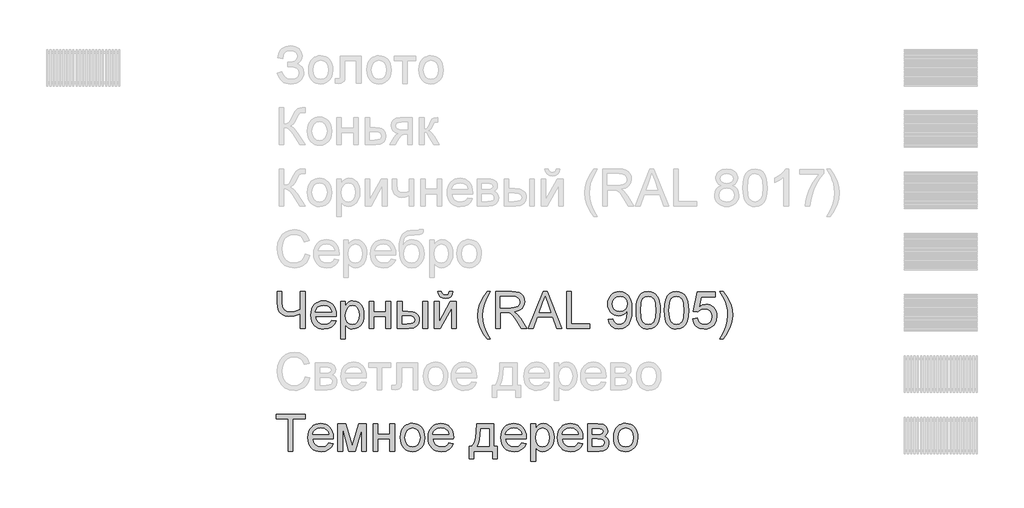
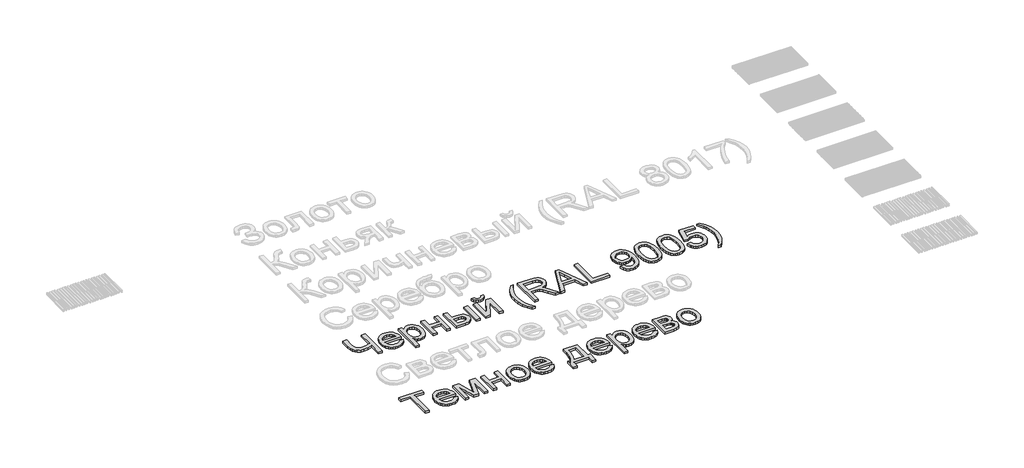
# One storey, part 4 of 10: 2 proxies.
"""IFC4 building model written with IfcOpenShell, lengths in millimetres."""

from ifc_helpers import new_model, si_unit, origin, origin_with_axes, place, context, project, spatial, polyline, outline, extrude, element, save

model = new_model("IFC4")

# Units and contexts
model_context = context("Model", 3, world=origin())
ifc_project = project(units=[si_unit("LENGTHUNIT", "METRE", prefix="MILLI")], contexts=[model_context])

# Site, building, storey
site = spatial("IfcSite", under=ifc_project)
building = spatial("IfcBuilding", under=site)
storey = spatial("IfcBuildingStorey", under=building, Name="Уровень 1", Elevation=0.0)

# Proxies
placement = place(None, origin())
element("IfcBuildingElementProxy", 1, Name="300", ObjectType="300", at=placement, inside=storey, context=model_context, shape_type="SweptSolid", body=[
    extrude(outline(polyline([(7314.0636537, -21515.1127464), (7276.3925374, -21515.1127464), (7276.3925374, -21394.447452), (7226.4341625, -21410.7814125), (7183.0976634, -21416.2260661), (7153.7314832, -21412.5012609), (7128.0257288, -21401.3268453), (7108.1049187, -21384.4226676), (7096.0935716, -21363.5085762), (7090.0511098, -21337.0486637), (7088.0369559, -21303.5070228), (7088.0369559, -21213.7438159), (7125.7080722, -21213.7438159), (7125.7080722, -21298.4302512), (7130.2330207, -21339.1639851), (7135.8892064, -21353.2193766), (7143.8078663, -21363.0671178), (7163.7286764, -21374.6829918), (7187.2915182, -21378.5549498), (7230.7567759, -21373.8828484), (7276.3925374, -21359.8665444), (7276.3925374, -21213.7438159), (7314.0636537, -21213.7438159), (7314.0636537, -21515.1127464)])), origin_with_axes(), (0.0, 0.0, 1.0), 20.0),
    extrude(outline(polyline([(7530.2311141, -21449.1882928), (7567.1664664, -21453.8971824), (7553.8583352, -21481.7274553), (7532.622347, -21502.5311821), (7503.9367485, -21515.4990225), (7468.2797861, -21519.8216359), (7444.9054838, -21517.9569341), (7424.0787644, -21512.3628285), (7405.7996277, -21503.0393192), (7390.0680739, -21489.9864061), (7377.4175318, -21473.5673728), (7368.3814303, -21454.1455027), (7362.9597694, -21431.7207959), (7361.1525491, -21406.2932522), (7362.9781635, -21380.0034851), (7368.4550067, -21356.831518), (7377.5830787, -21336.7773507), (7390.3623795, -21319.8409833), (7406.0525466, -21306.3856994), (7423.9132175, -21296.7747822), (7443.9443921, -21291.008232), (7466.1460705, -21289.0860485), (7487.6326783, -21291.0036334), (7507.0637454, -21296.7563881), (7524.4392719, -21306.3443126), (7539.7592578, -21319.7674069), (7552.2649463, -21336.6669861), (7561.197581, -21356.6843652), (7566.5571618, -21379.8195441), (7568.3436888, -21406.072523), (7568.1229596, -21416.2260661), (7398.8236654, -21416.2260661), (7405.3443738, -21444.424221), (7420.4919149, -21465.1543714), (7442.3533025, -21477.9014826), (7469.0155501, -21482.1505196), (7489.0651188, -21480.1823509), (7505.9509024, -21474.2778449), (7519.6729008, -21464.0691195), (7530.2311141, -21449.1882928)]), holes=[polyline([(7398.8236654, -21378.5549498), (7530.6725725, -21378.5549498), (7525.5774068, -21358.6525338), (7515.5894107, -21344.4155006), (7493.6268556, -21331.1717488), (7465.9989177, -21326.7571648), (7440.605863, -21330.279635), (7419.6089981, -21340.8470453), (7405.01328, -21357.3189616), (7398.8236654, -21378.5549498)])]), origin_with_axes(), (0.0, 0.0, 1.0), 20.0),
    extrude(outline(polyline([(7606.0148051, -21599.8727581), (7606.0148051, -21293.7949381), (7643.6859214, -21293.7949381), (7643.6859214, -21330.7302904), (7655.97318, -21312.5109346), (7669.7319666, -21299.497109), (7685.7716216, -21291.6888137), (7704.9014854, -21289.0860485), (7730.3773136, -21292.7280803), (7752.6525684, -21303.6541756), (7770.7891507, -21321.2021467), (7783.8489616, -21344.7098062), (7791.7400303, -21372.4665028), (7794.3703866, -21402.7615851), (7791.3997395, -21434.9788508), (7782.4877982, -21463.7932081), (7767.9196712, -21487.7423259), (7747.980467, -21505.3638735), (7724.7579161, -21516.2071953), (7700.3397486, -21519.8216359), (7683.0217037, -21517.4028118), (7667.5614629, -21510.1463394), (7654.3269081, -21499.192653), (7643.6859214, -21485.6821868), (7643.6859214, -21599.8727581), (7606.0148051, -21599.8727581)]), holes=[polyline([(7643.6859214, -21406.2196758), (7647.7602145, -21439.991243), (7659.9830938, -21463.6092671), (7678.0185086, -21477.5152065), (7699.5304083, -21482.1505196), (7721.3917958, -21477.3496596), (7739.8870631, -21462.9470795), (7752.4962185, -21438.4645327), (7756.6992703, -21403.4237726), (7752.5973861, -21369.8361465), (7740.2917333, -21345.8870286), (7722.2839097, -21331.5396308), (7701.0755126, -21326.7571648), (7679.7843422, -21331.8431334), (7661.0867398, -21347.1010392), (7648.036126, -21372.0526355), (7643.6859214, -21406.2196758)])]), origin_with_axes(), (0.0, 0.0, 1.0), 20.0),
    extrude(outline(polyline([(7836.7503925, -21293.7949381), (7874.4215088, -21293.7949381), (7874.4215088, -21378.5549498), (7973.3081891, -21378.5549498), (7973.3081891, -21293.7949381), (8010.9793054, -21293.7949381), (8010.9793054, -21515.1127464), (7973.3081891, -21515.1127464), (7973.3081891, -21416.2260661), (7874.4215088, -21416.2260661), (7874.4215088, -21515.1127464), (7836.7503925, -21515.1127464), (7836.7503925, -21293.7949381)])), origin_with_axes(), (0.0, 0.0, 1.0), 20.0),
    extrude(outline(polyline([(8274.6771195, -21293.7949381), (8312.3482358, -21293.7949381), (8312.3482358, -21515.1127464), (8274.6771195, -21515.1127464), (8274.6771195, -21293.7949381)])), origin_with_axes(), (0.0, 0.0, 1.0), 20.0),
    extrude(outline(polyline([(8067.4859798, -21293.7949381), (8105.1570961, -21293.7949381), (8105.1570961, -21373.8460602), (8151.7309567, -21373.8460602), (8191.9864441, -21378.5641468), (8208.2031423, -21384.4617551), (8221.8124768, -21392.7184066), (8232.579923, -21403.0489929), (8240.2709559, -21415.1684053), (8244.8855757, -21429.076644), (8246.4237823, -21444.7737089), (8241.2642373, -21471.7302621), (8225.7856024, -21494.4745665), (8213.9237073, -21503.5037702), (8198.976202, -21509.9532014), (8159.8243606, -21515.1127464), (8067.4859798, -21515.1127464), (8067.4859798, -21293.7949381)]), holes=[polyline([(8105.1570961, -21477.4416301), (8143.858282, -21477.4416301), (8173.8590587, -21475.4642644), (8193.816657, -21469.5321672), (8205.0186637, -21459.4062153), (8208.752666, -21444.8472853), (8205.984354, -21432.5416326), (8197.6794179, -21421.6707196), (8179.9199146, -21414.0555623), (8148.7879008, -21411.5171765), (8105.1570961, -21411.5171765), (8105.1570961, -21477.4416301)])]), origin_with_axes(), (0.0, 0.0, 1.0), 20.0),
    extrude(outline(polyline([(8491.2860383, -21213.7438159), (8519.5393755, -21213.7438159), (8513.4601255, -21237.8676778), (8501.2556403, -21255.6455752), (8483.4777429, -21266.5992616), (8460.6782563, -21270.2504904), (8435.9381921, -21266.6268527), (8416.7531461, -21255.7559398), (8403.6381529, -21238.0056335), (8397.1082475, -21213.7438159), (8425.3615847, -21213.7438159), (8429.3347103, -21226.1506362), (8435.9565862, -21234.9706071), (8445.2640007, -21240.2405166), (8457.2937419, -21241.9971532), (8470.8685875, -21240.2956989), (8480.6910368, -21235.1913363), (8487.3129127, -21226.4265477), (8491.2860383, -21213.7438159)])), origin_with_axes(), (0.0, 0.0, 1.0), 20.0),
    extrude(outline(polyline([(8368.8549103, -21293.7949381), (8406.5260266, -21293.7949381), (8406.5260266, -21462.5791975), (8499.0851366, -21293.7949381), (8547.7927127, -21293.7949381), (8547.7927127, -21515.1127464), (8510.1215964, -21515.1127464), (8510.1215964, -21347.3585566), (8418.1510976, -21515.1127464), (8368.8549103, -21515.1127464), (8368.8549103, -21293.7949381)])), origin_with_axes(), (0.0, 0.0, 1.0), 20.0),
    extrude(outline(polyline([(8797.3638583, -21599.8727581), (8768.1724219, -21558.9090979), (8743.8738162, -21511.5075028), (8727.4846733, -21459.9672353), (8722.0216257, -21406.5875578), (8726.1051158, -21359.7745739), (8738.3555862, -21314.984941), (8762.6725861, -21264.2540139), (8797.3638583, -21213.7438159), (8825.6171955, -21213.7438159), (8790.3741004, -21273.4142755), (8769.1840974, -21331.2453252), (8762.0655808, -21368.9348356), (8759.692742, -21406.808287), (8763.8130203, -21455.1019959), (8776.1738553, -21503.3773107), (8796.7752471, -21551.6342315), (8825.6171955, -21599.8727581), (8797.3638583, -21599.8727581)])), origin_with_axes(), (0.0, 0.0, 1.0), 20.0),
    extrude(outline(polyline([(8867.9972013, -21515.1127464), (8867.9972013, -21213.7438159), (8997.8595456, -21213.7438159), (9032.7623499, -21215.776364), (9058.1554046, -21221.874008), (9076.7150513, -21233.1311971), (9091.1176314, -21250.64238), (9100.3606665, -21272.3566148), (9103.4416783, -21296.2229593), (9098.3373156, -21325.9110363), (9083.0242275, -21350.5223417), (9071.4244484, -21360.5517246), (9057.0425616, -21368.5669536), (9019.9324653, -21378.5549498), (9041.3431975, -21394.6681812), (9071.8774031, -21433.4429435), (9122.1300836, -21515.1127464), (9078.3521262, -21515.1127464), (9039.1359055, -21452.6463836), (9010.8089919, -21411.2964473), (8990.9065759, -21391.7619134), (8972.9907228, -21384.5882145), (8951.1385322, -21383.2638393), (8905.6683176, -21383.2638393), (8905.6683176, -21515.1127464), (8867.9972013, -21515.1127464)]), holes=[polyline([(8905.6683176, -21345.592723), (8989.9868709, -21345.592723), (9014.2027033, -21344.2591508), (9032.9922762, -21340.2584341), (9047.1373389, -21333.3238585), (9057.4196407, -21323.1887095), (9063.6828316, -21310.929042), (9065.7705619, -21297.6209108), (9061.7882393, -21279.2452052), (9049.8412716, -21264.4379549), (9029.2858651, -21254.6706879), (8999.4782264, -21251.4149322), (8905.6683176, -21251.4149322), (8905.6683176, -21345.592723)])]), origin_with_axes(), (0.0, 0.0, 1.0), 20.0),
    extrude(outline(polyline([(9134.2701894, -21515.1127464), (9254.5676019, -21213.7438159), (9286.6469119, -21213.7438159), (9406.9443243, -21515.1127464), (9367.1394924, -21515.1127464), (9332.6321612, -21420.9349556), (9208.5087761, -21420.9349556), (9174.0750213, -21515.1127464), (9134.2701894, -21515.1127464)]), holes=[polyline([(9222.3411391, -21383.2638393), (9318.8733746, -21383.2638393), (9291.7236834, -21309.1724055), (9270.6072569, -21251.4149322), (9251.8452751, -21302.6976824), (9222.3411391, -21383.2638393)])]), origin_with_axes(), (0.0, 0.0, 1.0), 20.0),
    extrude(outline(polyline([(9447.1906145, -21515.1127464), (9447.1906145, -21213.7438159), (9484.8617309, -21213.7438159), (9484.8617309, -21477.4416301), (9635.5461961, -21477.4416301), (9635.5461961, -21515.1127464), (9447.1906145, -21515.1127464)])), origin_with_axes(), (0.0, 0.0, 1.0), 20.0),
    extrude(outline(polyline([(9786.2306613, -21439.7705138), (9823.9017776, -21435.0616242), (9830.3397125, -21456.4447652), (9840.8243494, -21471.0036952), (9855.0981708, -21479.3638135), (9872.9036594, -21482.1505196), (9888.878935, -21480.3570949), (9903.4010768, -21474.9768207), (9915.4676062, -21466.5983083), (9924.0760449, -21455.8101688), (9936.4000917, -21423.0686712), (9941.8447453, -21379.3642902), (9941.6240161, -21372.0066503), (9928.5734023, -21387.9359406), (9911.4944807, -21400.5542931), (9891.6196559, -21408.7764557), (9870.1813326, -21411.5171765), (9852.2861728, -21409.8433135), (9835.8303513, -21404.8217242), (9820.8138681, -21396.4524088), (9807.2367232, -21384.7353673), (9795.986432, -21370.2822034), (9787.9505096, -21353.704521), (9783.1289562, -21335.0023201), (9781.5217718, -21314.1756006), (9783.2071312, -21292.6545039), (9788.2632093, -21273.3406992), (9796.6900063, -21256.2341864), (9808.487522, -21241.3349656), (9822.8234235, -21229.2638376), (9838.8653778, -21220.6416033), (9856.6133848, -21215.4682628), (9876.0674445, -21213.7438159), (9904.1644319, -21217.6801533), (9929.7414276, -21229.4891653), (9951.1337656, -21248.5822409), (9966.6767799, -21274.3707687), (9976.1405443, -21310.0185341), (9979.2951324, -21358.689322), (9976.1497413, -21410.2939689), (9966.7135681, -21450.1815742), (9951.0693863, -21480.1547598), (9929.2999692, -21502.0161474), (9902.343416, -21515.3702638), (9871.1378258, -21519.8216359), (9838.9297571, -21514.5701204), (9813.2331997, -21498.815574), (9795.2621643, -21473.551278), (9786.2306613, -21439.7705138)]), holes=[polyline([(9941.6240161, -21313.2926838), (9937.55892, -21287.7616734), (9925.3636319, -21268.1167748), (9906.4361032, -21255.5903929), (9882.1742856, -21251.4149322), (9857.0111572, -21255.9122896), (9836.8512238, -21269.4043618), (9823.607472, -21290.0517388), (9819.1928881, -21316.0150106), (9823.3683487, -21339.2927438), (9835.8947306, -21357.769617), (9855.5580233, -21369.8269494), (9881.1442161, -21373.8460602), (9905.2128956, -21369.8269494), (9924.5910797, -21357.769617), (9937.365782, -21338.6121621), (9941.6240161, -21313.2926838)])]), origin_with_axes(), (0.0, 0.0, 1.0), 20.0),
    extrude(outline(polyline([(10012.2573591, -21366.8563023), (10015.0256712, -21318.6177757), (10023.3306072, -21280.1465161), (10037.0893938, -21250.8539122), (10056.2192576, -21230.1513529), (10080.8581542, -21217.8457002), (10111.1440394, -21213.7438159), (10134.3573933, -21216.1718371), (10155.1427261, -21223.4559006), (10172.5251503, -21235.3108979), (10185.5297789, -21251.4517204), (10195.3522281, -21271.7404125), (10203.1881146, -21296.0390183), (10208.3200685, -21326.8951206), (10210.0307197, -21366.8563023), (10207.2899989, -21414.8189174), (10199.0678363, -21453.1982066), (10185.3918231, -21482.5184016), (10166.2895505, -21503.3037343), (10141.5954716, -21515.6921605), (10111.1440394, -21519.8216359), (10090.3954949, -21518.0282112), (10072.0013952, -21512.647937), (10055.9617402, -21503.6808134), (10042.2765299, -21491.1268403), (10029.1431427, -21468.4331197), (10019.7621518, -21440.1567899), (10014.1335573, -21406.2978507), (10012.2573591, -21366.8563023)]), holes=[polyline([(10049.9284754, -21366.7827259), (10054.3430594, -21426.0393183), (10059.8612893, -21446.307317), (10067.5868112, -21460.3351173), (10087.3052862, -21476.696669), (10111.1440394, -21482.1505196), (10134.9827927, -21476.6782749), (10154.7012677, -21460.2615409), (10162.4267896, -21446.2107479), (10167.9450195, -21425.9473478), (10172.3596034, -21366.7827259), (10168.0921723, -21308.8597058), (10162.7578834, -21288.6583857), (10155.2898789, -21274.2971923), (10135.6081921, -21257.1354973), (10110.702581, -21251.4149322), (10087.1213452, -21256.4549156), (10068.1754224, -21271.5748656), (10060.1923831, -21287.2098504), (10054.4902122, -21308.2894887), (10049.9284754, -21366.7827259)])]), origin_with_axes(), (0.0, 0.0, 1.0), 20.0),
    extrude(outline(polyline([(10242.9929465, -21366.8563023), (10245.7612585, -21318.6177757), (10254.0661946, -21280.1465161), (10267.8249812, -21250.8539122), (10286.9548449, -21230.1513529), (10311.5937416, -21217.8457002), (10341.8796268, -21213.7438159), (10365.0929807, -21216.1718371), (10385.8783134, -21223.4559006), (10403.2607377, -21235.3108979), (10416.2653662, -21251.4517204), (10426.0878155, -21271.7404125), (10433.923702, -21296.0390183), (10439.0556558, -21326.8951206), (10440.7663071, -21366.8563023), (10438.0255863, -21414.8189174), (10429.8034237, -21453.1982066), (10416.1274105, -21482.5184016), (10397.0251379, -21503.3037343), (10372.331059, -21515.6921605), (10341.8796268, -21519.8216359), (10321.1310823, -21518.0282112), (10302.7369825, -21512.647937), (10286.6973275, -21503.6808134), (10273.0121173, -21491.1268403), (10259.8787301, -21468.4331197), (10250.4977392, -21440.1567899), (10244.8691447, -21406.2978507), (10242.9929465, -21366.8563023)]), holes=[polyline([(10280.6640628, -21366.7827259), (10285.0786468, -21426.0393183), (10290.5968767, -21446.307317), (10298.3223986, -21460.3351173), (10318.0408735, -21476.696669), (10341.8796268, -21482.1505196), (10365.7183801, -21476.6782749), (10385.436855, -21460.2615409), (10393.1623769, -21446.2107479), (10398.6806069, -21425.9473478), (10403.0951908, -21366.7827259), (10398.8277597, -21308.8597058), (10393.4934707, -21288.6583857), (10386.0254662, -21274.2971923), (10366.3437795, -21257.1354973), (10341.4381684, -21251.4149322), (10317.8569325, -21256.4549156), (10298.9110098, -21271.5748656), (10290.9279705, -21287.2098504), (10285.2257996, -21308.2894887), (10280.6640628, -21366.7827259)])]), origin_with_axes(), (0.0, 0.0, 1.0), 20.0),
    extrude(outline(polyline([(10473.7285339, -21435.0616242), (10511.3996502, -21430.3527347), (10518.3158317, -21452.9682803), (10530.3823611, -21469.1642852), (10547.5440562, -21478.903961), (10569.7457346, -21482.1505196), (10596.7482731, -21477.6347681), (10616.9817828, -21464.0875136), (10629.6185293, -21443.0722547), (10633.8307782, -21416.1524897), (10629.8852438, -21390.8054202), (10618.0486406, -21371.4180391), (10598.2289981, -21359.1123863), (10570.3343458, -21355.0105021), (10552.0598077, -21356.647577), (10537.2617545, -21361.5588016), (10516.1085397, -21378.5549498), (10478.4374234, -21373.8460602), (10511.3996502, -21218.4527055), (10657.3752259, -21218.4527055), (10657.3752259, -21256.1238218), (10541.8602794, -21256.1238218), (10525.747048, -21339.1179999), (10552.657616, -21322.7840393), (10580.8557709, -21317.3393858), (10599.2015861, -21319.0270444), (10616.0528808, -21324.0900204), (10631.4096548, -21332.5283136), (10645.2719082, -21344.3419242), (10656.7475272, -21358.8088837), (10664.9443979, -21375.2072236), (10669.8625204, -21393.536944), (10671.5018945, -21413.7980449), (10665.5973885, -21451.4691612), (10658.2167559, -21468.2629743), (10647.8838704, -21483.695624), (10632.2304915, -21499.5007542), (10613.9651504, -21510.7901329), (10593.0878472, -21517.5637602), (10569.5985818, -21519.8216359), (10532.5988502, -21514.0182974), (10516.9201794, -21506.7641244), (10503.1223053, -21496.608282), (10491.6420878, -21484.0566082), (10482.9163867, -21469.6149406), (10473.7285339, -21435.0616242)])), origin_with_axes(), (0.0, 0.0, 1.0), 20.0),
    extrude(outline(polyline([(10723.2996794, -21599.8727581), (10695.0463422, -21599.8727581), (10723.8882906, -21551.6342315), (10744.4896823, -21503.3773107), (10756.8505174, -21455.1019959), (10760.9707957, -21406.808287), (10758.5979569, -21369.2107471), (10751.4794402, -21331.9075128), (10742.4847255, -21302.3481945), (10730.5101665, -21274.0028867), (10695.0463422, -21213.7438159), (10723.2996794, -21213.7438159), (10757.9909516, -21264.2540139), (10782.3079514, -21314.984941), (10794.5584219, -21359.7745739), (10798.641912, -21406.5875578), (10793.1512732, -21459.9672353), (10776.6793569, -21511.5075028), (10752.35316, -21558.9090979), (10723.2996794, -21599.8727581)])), origin_with_axes(), (0.0, 0.0, 1.0), 20.0),
])
element("IfcBuildingElementProxy", 2, Name="300", ObjectType="300", at=placement, inside=storey, context=model_context, shape_type="SweptSolid", body=[
    extrude(outline(polyline([(7177.5058571, -22515.1127464), (7177.5058571, -22251.4149322), (7078.6191768, -22251.4149322), (7078.6191768, -22213.7438159), (7314.0636537, -22213.7438159), (7314.0636537, -22251.4149322), (7215.1769734, -22251.4149322), (7215.1769734, -22515.1127464), (7177.5058571, -22515.1127464)])), origin_with_axes(), (0.0, 0.0, 1.0), 20.0),
    extrude(outline(polyline([(7506.6866664, -22449.1882928), (7543.6220187, -22453.8971824), (7530.3138875, -22481.7274553), (7509.0778994, -22502.5311821), (7480.3923008, -22515.4990225), (7444.7353384, -22519.8216359), (7421.3610361, -22517.9569341), (7400.5343167, -22512.3628285), (7382.25518, -22503.0393192), (7366.5236262, -22489.9864061), (7353.8730841, -22473.5673728), (7344.8369826, -22454.1455027), (7339.4153217, -22431.7207959), (7337.6081014, -22406.2932522), (7339.4337158, -22380.0034851), (7344.910559, -22356.831518), (7354.038631, -22336.7773507), (7366.8179318, -22319.8409833), (7382.5080989, -22306.3856994), (7400.3687698, -22296.7747822), (7420.3999444, -22291.008232), (7442.6016228, -22289.0860485), (7464.0882306, -22291.0036334), (7483.5192977, -22296.7563881), (7500.8948242, -22306.3443126), (7516.2148101, -22319.7674069), (7528.7204986, -22336.6669861), (7537.6531333, -22356.6843652), (7543.0127141, -22379.8195441), (7544.7992411, -22406.072523), (7544.5785119, -22416.2260661), (7375.2792177, -22416.2260661), (7381.7999261, -22444.424221), (7396.9474672, -22465.1543714), (7418.8088548, -22477.9014826), (7445.4711024, -22482.1505196), (7465.5206711, -22480.1823509), (7482.4064547, -22474.2778449), (7496.1284531, -22464.0691195), (7506.6866664, -22449.1882928)]), holes=[polyline([(7375.2792177, -22378.5549498), (7507.1281248, -22378.5549498), (7502.0329591, -22358.6525338), (7492.044963, -22344.4155006), (7470.0824079, -22331.1717488), (7442.45447, -22326.7571648), (7417.0614153, -22330.279635), (7396.0645504, -22340.8470453), (7381.4688323, -22357.3189616), (7375.2792177, -22378.5549498)])]), origin_with_axes(), (0.0, 0.0, 1.0), 20.0),
    extrude(outline(polyline([(7582.4703574, -22293.7949381), (7647.2911649, -22293.7949381), (7697.2495399, -22470.966907), (7751.107464, -22293.7949381), (7813.2059448, -22293.7949381), (7813.2059448, -22515.1127464), (7775.5348285, -22515.1127464), (7775.5348285, -22336.9107079), (7721.3825988, -22515.1127464), (7671.9392586, -22515.1127464), (7620.1414737, -22328.3758456), (7620.1414737, -22515.1127464), (7582.4703574, -22515.1127464), (7582.4703574, -22293.7949381)])), origin_with_axes(), (0.0, 0.0, 1.0), 20.0),
    extrude(outline(polyline([(7869.7126192, -22293.7949381), (7907.3837355, -22293.7949381), (7907.3837355, -22378.5549498), (8006.2704158, -22378.5549498), (8006.2704158, -22293.7949381), (8043.9415321, -22293.7949381), (8043.9415321, -22515.1127464), (8006.2704158, -22515.1127464), (8006.2704158, -22416.2260661), (7907.3837355, -22416.2260661), (7907.3837355, -22515.1127464), (7869.7126192, -22515.1127464), (7869.7126192, -22293.7949381)])), origin_with_axes(), (0.0, 0.0, 1.0), 20.0),
    extrude(outline(polyline([(8091.0304275, -22404.4538422), (8093.0675741, -22375.7912363), (8099.1790137, -22351.0925588), (8109.3647465, -22330.3578099), (8123.6247723, -22313.5869894), (8137.9813672, -22302.8678278), (8153.8278841, -22295.2112838), (8171.1643231, -22290.6173573), (8189.9906842, -22289.0860485), (8210.7737177, -22290.9507504), (8229.5655899, -22296.544856), (8246.3663007, -22305.8683653), (8261.1758503, -22318.9212784), (8273.2630731, -22335.2621367), (8281.8968037, -22354.449482), (8287.077042, -22376.4833143), (8288.8037881, -22401.3636335), (8285.7503676, -22439.4210259), (8276.5901059, -22468.391733), (8261.5897175, -22490.0875737), (8241.015917, -22506.3203667), (8216.5793554, -22516.4463186), (8189.9906842, -22519.8216359), (8168.9041481, -22517.9638318), (8149.937532, -22512.3904196), (8133.0908359, -22503.1013992), (8118.3640598, -22490.0967707), (8106.4055957, -22473.5972632), (8097.8638356, -22453.823606), (8092.7387795, -22430.775799), (8091.0304275, -22404.4538422)]), holes=[polyline([(8128.7015438, -22404.3802658), (8133.0609455, -22438.4737297), (8146.1391504, -22462.7631385), (8165.8208371, -22477.3036743), (8189.9906842, -22482.1505196), (8214.0501667, -22477.2760832), (8233.6950653, -22462.6527739), (8246.7732702, -22438.0414684), (8251.1326718, -22403.2030434), (8246.745679, -22370.1028609), (8233.5847007, -22346.144546), (8213.912211, -22331.6040101), (8189.9906842, -22326.7571648), (8165.8208371, -22331.585616), (8146.1391504, -22346.0709696), (8133.0609455, -22370.305196), (8128.7015438, -22404.3802658)])]), origin_with_axes(), (0.0, 0.0, 1.0), 20.0),
    extrude(outline(polyline([(8486.1356903, -22449.1882928), (8523.0710427, -22453.8971824), (8509.7629115, -22481.7274553), (8488.5269233, -22502.5311821), (8459.8413247, -22515.4990225), (8424.1843624, -22519.8216359), (8400.8100601, -22517.9569341), (8379.9833406, -22512.3628285), (8361.704204, -22503.0393192), (8345.9726502, -22489.9864061), (8333.3221081, -22473.5673728), (8324.2860066, -22454.1455027), (8318.8643457, -22431.7207959), (8317.0571254, -22406.2932522), (8318.8827398, -22380.0034851), (8324.359583, -22356.831518), (8333.487655, -22336.7773507), (8346.2669558, -22319.8409833), (8361.9571229, -22306.3856994), (8379.8177937, -22296.7747822), (8399.8489684, -22291.008232), (8422.0506468, -22289.0860485), (8443.5372546, -22291.0036334), (8462.9683217, -22296.7563881), (8480.3438482, -22306.3443126), (8495.663834, -22319.7674069), (8508.1695226, -22336.6669861), (8517.1021573, -22356.6843652), (8522.4617381, -22379.8195441), (8524.248265, -22406.072523), (8524.0275358, -22416.2260661), (8354.7282417, -22416.2260661), (8361.24895, -22444.424221), (8376.3964912, -22465.1543714), (8398.2578787, -22477.9014826), (8424.9201263, -22482.1505196), (8444.9696951, -22480.1823509), (8461.8554787, -22474.2778449), (8475.5774771, -22464.0691195), (8486.1356903, -22449.1882928)]), holes=[polyline([(8354.7282417, -22378.5549498), (8486.5771487, -22378.5549498), (8481.4819831, -22358.6525338), (8471.4939869, -22344.4155006), (8449.5314318, -22331.1717488), (8421.903494, -22326.7571648), (8396.5104393, -22330.279635), (8375.5135744, -22340.8470453), (8360.9178562, -22357.3189616), (8354.7282417, -22378.5549498)])]), origin_with_axes(), (0.0, 0.0, 1.0), 20.0),
    extrude(outline(polyline([(8712.6038466, -22293.7949381), (8853.8705327, -22293.7949381), (8853.8705327, -22477.4416301), (8882.12387, -22477.4416301), (8882.12387, -22576.3283104), (8844.4527536, -22576.3283104), (8844.4527536, -22515.1127464), (8689.0593989, -22515.1127464), (8689.0593989, -22576.3283104), (8651.3882826, -22576.3283104), (8651.3882826, -22477.4416301), (8674.9327303, -22477.4416301), (8692.0484401, -22446.5119513), (8704.0321961, -22405.5942764), (8710.8839982, -22354.6886053), (8712.6038466, -22293.7949381)]), holes=[polyline([(8745.5660733, -22331.4660544), (8742.4758646, -22377.5892595), (8736.7369055, -22417.2929239), (8728.349196, -22450.5770474), (8717.3127361, -22477.4416301), (8816.1994164, -22477.4416301), (8816.1994164, -22331.4660544), (8745.5660733, -22331.4660544)])]), origin_with_axes(), (0.0, 0.0, 1.0), 20.0),
    extrude(outline(polyline([(9079.4557722, -22449.1882928), (9116.3911245, -22453.8971824), (9103.0829933, -22481.7274553), (9081.8470051, -22502.5311821), (9053.1614066, -22515.4990225), (9017.5044442, -22519.8216359), (8994.1301419, -22517.9569341), (8973.3034225, -22512.3628285), (8955.0242858, -22503.0393192), (8939.292732, -22489.9864061), (8926.6421899, -22473.5673728), (8917.6060884, -22454.1455027), (8912.1844275, -22431.7207959), (8910.3772072, -22406.2932522), (8912.2028216, -22380.0034851), (8917.6796648, -22356.831518), (8926.8077368, -22336.7773507), (8939.5870376, -22319.8409833), (8955.2772047, -22306.3856994), (8973.1378756, -22296.7747822), (8993.1690502, -22291.008232), (9015.3707286, -22289.0860485), (9036.8573364, -22291.0036334), (9056.2884035, -22296.7563881), (9073.66393, -22306.3443126), (9088.9839158, -22319.7674069), (9101.4896044, -22336.6669861), (9110.4222391, -22356.6843652), (9115.7818199, -22379.8195441), (9117.5683469, -22406.072523), (9117.3476177, -22416.2260661), (8948.0483235, -22416.2260661), (8954.5690319, -22444.424221), (8969.716573, -22465.1543714), (8991.5779606, -22477.9014826), (9018.2402082, -22482.1505196), (9038.2897769, -22480.1823509), (9055.1755605, -22474.2778449), (9068.8975589, -22464.0691195), (9079.4557722, -22449.1882928)]), holes=[polyline([(8948.0483235, -22378.5549498), (9079.8972306, -22378.5549498), (9074.8020649, -22358.6525338), (9064.8140688, -22344.4155006), (9042.8515136, -22331.1717488), (9015.2235758, -22326.7571648), (8989.8305211, -22330.279635), (8968.8336562, -22340.8470453), (8954.2379381, -22357.3189616), (8948.0483235, -22378.5549498)])]), origin_with_axes(), (0.0, 0.0, 1.0), 20.0),
    extrude(outline(polyline([(9155.2394632, -22599.8727581), (9155.2394632, -22293.7949381), (9192.9105795, -22293.7949381), (9192.9105795, -22330.7302904), (9205.1978381, -22312.5109346), (9218.9566247, -22299.497109), (9234.9962797, -22291.6888137), (9254.1261435, -22289.0860485), (9279.6019716, -22292.7280803), (9301.8772265, -22303.6541756), (9320.0138088, -22321.2021467), (9333.0736196, -22344.7098062), (9340.9646884, -22372.4665028), (9343.5950447, -22402.7615851), (9340.6243976, -22434.9788508), (9331.7124563, -22463.7932081), (9317.1443293, -22487.7423259), (9297.2051251, -22505.3638735), (9273.9825742, -22516.2071953), (9249.5644067, -22519.8216359), (9232.2463618, -22517.4028118), (9216.786121, -22510.1463394), (9203.5515662, -22499.192653), (9192.9105795, -22485.6821868), (9192.9105795, -22599.8727581), (9155.2394632, -22599.8727581)]), holes=[polyline([(9192.9105795, -22406.2196758), (9196.9848726, -22439.991243), (9209.2077519, -22463.6092671), (9227.2431667, -22477.5152065), (9248.7550663, -22482.1505196), (9270.6164539, -22477.3496596), (9289.1117212, -22462.9470795), (9301.7208766, -22438.4645327), (9305.9239284, -22403.4237726), (9301.8220442, -22369.8361465), (9289.5163914, -22345.8870286), (9271.5085677, -22331.5396308), (9250.3001707, -22326.7571648), (9229.0090003, -22331.8431334), (9210.3113979, -22347.1010392), (9197.2607841, -22372.0526355), (9192.9105795, -22406.2196758)])]), origin_with_axes(), (0.0, 0.0, 1.0), 20.0),
    extrude(outline(polyline([(9540.9269469, -22449.1882928), (9577.8622992, -22453.8971824), (9564.5541681, -22481.7274553), (9543.3181799, -22502.5311821), (9514.6325813, -22515.4990225), (9478.9756189, -22519.8216359), (9455.6013167, -22517.9569341), (9434.7745972, -22512.3628285), (9416.4954606, -22503.0393192), (9400.7639068, -22489.9864061), (9388.1133646, -22473.5673728), (9379.0772631, -22454.1455027), (9373.6556022, -22431.7207959), (9371.8483819, -22406.2932522), (9373.6739963, -22380.0034851), (9379.1508395, -22356.831518), (9388.2789115, -22336.7773507), (9401.0582124, -22319.8409833), (9416.7483794, -22306.3856994), (9434.6090503, -22296.7747822), (9454.6402249, -22291.008232), (9476.8419034, -22289.0860485), (9498.3285111, -22291.0036334), (9517.7595783, -22296.7563881), (9535.1351048, -22306.3443126), (9550.4550906, -22319.7674069), (9562.9607792, -22336.6669861), (9571.8934139, -22356.6843652), (9577.2529947, -22379.8195441), (9579.0395216, -22406.072523), (9578.8187924, -22416.2260661), (9409.5194982, -22416.2260661), (9416.0402066, -22444.424221), (9431.1877478, -22465.1543714), (9453.0491353, -22477.9014826), (9479.7113829, -22482.1505196), (9499.7609517, -22480.1823509), (9516.6467352, -22474.2778449), (9530.3687337, -22464.0691195), (9540.9269469, -22449.1882928)]), holes=[polyline([(9409.5194982, -22378.5549498), (9541.3684053, -22378.5549498), (9536.2732397, -22358.6525338), (9526.2852435, -22344.4155006), (9504.3226884, -22331.1717488), (9476.6947506, -22326.7571648), (9451.3016958, -22330.279635), (9430.304831, -22340.8470453), (9415.7091128, -22357.3189616), (9409.5194982, -22378.5549498)])]), origin_with_axes(), (0.0, 0.0, 1.0), 20.0),
    extrude(outline(polyline([(9616.7106379, -22293.7949381), (9699.704816, -22293.7949381), (9726.3854577, -22295.0549339), (9745.2118188, -22298.8349214), (9759.062576, -22305.9718321), (9770.8164057, -22317.3025976), (9778.8454302, -22332.0638626), (9781.5217718, -22349.4922722), (9779.903091, -22363.5361673), (9775.0470486, -22375.648682), (9766.9352507, -22385.8849985), (9755.5493029, -22394.3002992), (9769.4920305, -22402.1269886), (9780.8595842, -22414.7177499), (9788.4195592, -22431.0793016), (9790.9395508, -22450.2183624), (9784.5567982, -22478.9315522), (9769.3816659, -22499.1466678), (9745.3589716, -22511.1212267), (9712.4335331, -22515.1127464), (9616.7106379, -22515.1127464), (9616.7106379, -22293.7949381)]), holes=[polyline([(9654.3817542, -22477.4416301), (9700.5877328, -22477.4416301), (9725.7692554, -22475.7401758), (9741.5697871, -22470.6358132), (9750.0494671, -22461.3559898), (9753.2684345, -22447.1281537), (9751.6589508, -22437.7011775), (9746.8304996, -22428.9915713), (9739.4176774, -22422.1765573), (9730.0550806, -22418.433358), (9696.9089129, -22416.2260661), (9654.3817542, -22416.2260661), (9654.3817542, -22477.4416301)]), polyline([(9654.3817542, -22378.5549498), (9691.6114121, -22378.5549498), (9722.3295587, -22376.6419634), (9737.2655677, -22368.9900179), (9742.2043835, -22362.6624476), (9743.8506555, -22355.1576549), (9740.9627818, -22343.9188599), (9732.2991608, -22336.6899787), (9716.6457819, -22332.7720355), (9692.7886345, -22331.4660544), (9654.3817542, -22331.4660544), (9654.3817542, -22378.5549498)])]), origin_with_axes(), (0.0, 0.0, 1.0), 20.0),
    extrude(outline(polyline([(9828.6106671, -22404.4538422), (9830.6478137, -22375.7912363), (9836.7592533, -22351.0925588), (9846.9449861, -22330.3578099), (9861.2050119, -22313.5869894), (9875.5616068, -22302.8678278), (9891.4081237, -22295.2112838), (9908.7445627, -22290.6173573), (9927.5709238, -22289.0860485), (9948.3539573, -22290.9507504), (9967.1458295, -22296.544856), (9983.9465403, -22305.8683653), (9998.7560899, -22318.9212784), (10010.8433127, -22335.2621367), (10019.4770433, -22354.449482), (10024.6572816, -22376.4833143), (10026.3840278, -22401.3636335), (10023.3306072, -22439.4210259), (10014.1703455, -22468.391733), (9999.1699572, -22490.0875737), (9978.5961566, -22506.3203667), (9954.159595, -22516.4463186), (9927.5709238, -22519.8216359), (9906.4843877, -22517.9638318), (9887.5177716, -22512.3904196), (9870.6710755, -22503.1013992), (9855.9442994, -22490.0967707), (9843.9858353, -22473.5972632), (9835.4440752, -22453.823606), (9830.3190192, -22430.775799), (9828.6106671, -22404.4538422)]), holes=[polyline([(9866.2817835, -22404.3802658), (9870.6411851, -22438.4737297), (9883.71939, -22462.7631385), (9903.4010768, -22477.3036743), (9927.5709238, -22482.1505196), (9951.6304063, -22477.2760832), (9971.2753049, -22462.6527739), (9984.3535098, -22438.0414684), (9988.7129114, -22403.2030434), (9984.3259187, -22370.1028609), (9971.1649403, -22346.144546), (9951.4924506, -22331.6040101), (9927.5709238, -22326.7571648), (9903.4010768, -22331.585616), (9883.71939, -22346.0709696), (9870.6411851, -22370.305196), (9866.2817835, -22404.3802658)])]), origin_with_axes(), (0.0, 0.0, 1.0), 20.0),
])

save(model, "model.ifc")
